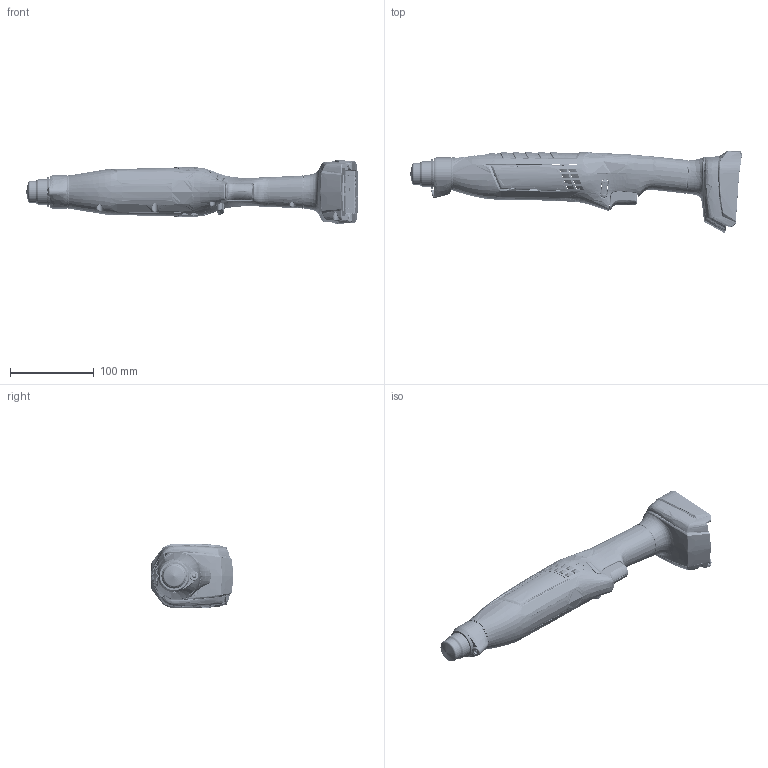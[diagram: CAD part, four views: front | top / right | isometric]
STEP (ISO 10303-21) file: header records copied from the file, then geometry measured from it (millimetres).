
FILE_DESCRIPTION((''),'2;1');
FILE_NAME('AWAS_15-500_BARETOOL','2011-06-29T',('lem2mt'),(''),'PRO/ENGINEER BY PARAMETRIC TECHNOLOGY CORPORATION, 2009380','PRO/ENGINEER BY PARAMETRIC TECHNOLOGY CORPORATION, 2009380','');
FILE_SCHEMA(('AUTOMOTIVE_DESIGN_CC2 { 1 2 10303 214 -1 1 5 2 }'));
Length unit declared in the file: millimetre
Products named in the file (1): AWAS_15-500_BARETOOL
Bounding box: 395.61 x 98.34 x 77.09 mm (x, y, z)
Volume: 240381.6 mm3; surface area: 218088.4 mm2
Topology: 5 solids, 5 shells, 7901 faces, 20901 edges, 13061 vertices
Faces by surface type: bspline 2928, plane 2701, cylinder 1315, cone 542, sphere 155, extrusion 134, torus 126
Entity records: 659557 total; most frequent: CARTESIAN_POINT 338806, ORIENTED_EDGE 41726, PRESENTATION_STYLE_ASSIGNMENT 28842, DIRECTION 23184, STYLED_ITEM 21002, CURVE_STYLE 20997, EDGE_CURVE 20863, FILL_AREA_STYLE_COLOUR 15268
